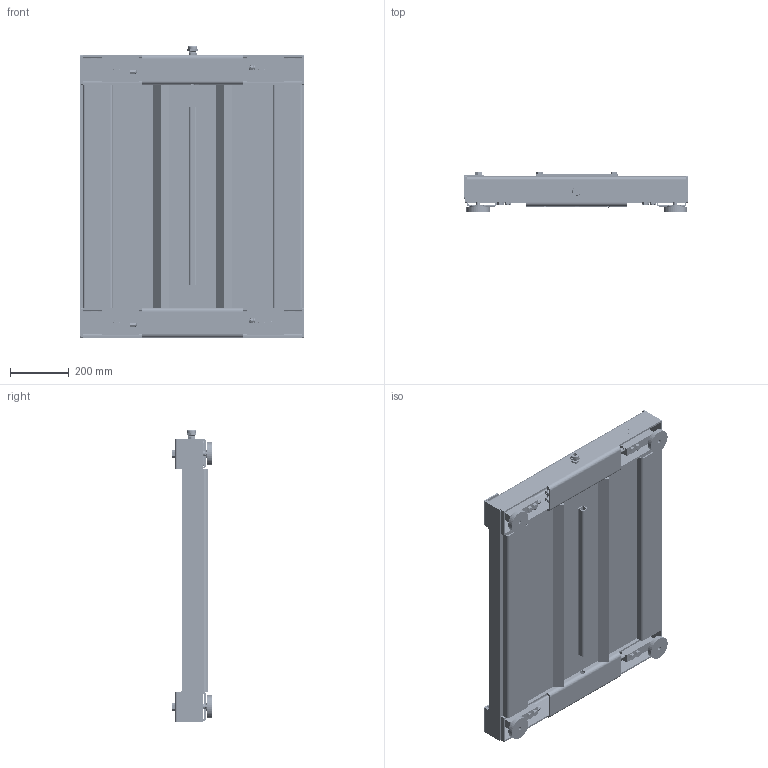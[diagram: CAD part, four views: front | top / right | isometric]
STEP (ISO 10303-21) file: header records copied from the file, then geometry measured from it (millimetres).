
FILE_DESCRIPTION (( 'STEP AP214' ), '1' );
FILE_NAME ('Drum_Scale_HIDS-3030 Series.STEP', '2024-03-20T21:03:57', ( '' ), ( '' ), 'SwSTEP 2.0', 'SolidWorks 2023', '' );
FILE_SCHEMA (( 'AUTOMOTIVE_DESIGN' ));
Length unit declared in the file: inch
Products named in the file (47): 0530-0825-01-0; Metal in foot; smkds_1-9-3.5; 100-140783_1; 1403-0271_2817-0277-0_McMaster_91772A194_Passivated 18-8 Stainless Steel Pan Head Phillips Screw; Load Sensor_HISLB Series_With PN 5504-0087-5KG Foot; T.125 x 1 x 1 x 24_Default_As Machined_; Hex Bolt - 1_2 - 20_3; 1403-0271_McMaster_90402A144_Steel Pan Head Screws; 900-100128_1; L.25 x 1.5 x 1.5 x 30_Default_As Machined_; 0519-0627-03-0_J-Box_0519-0627-XX-0_Assembly Step 7; 1403-0271_McMaster_94459A330_Heat-Set Inserts for Plastic; Hex Bolt - 1_2 - 13_1.25; 1403-0271_Bottom; 800-000166_1; 900-100111_1; SLB-CU_Body; DP.25 x 30 x 30_1; 200-140371-1_Back Stop; 1403-0271_2822-0085-0_McMaster_90350A270_Wire-Lockable Rounded Head Screws; 100-142126_CS No Hole; 100-142128; 0535-0575-03-0_PWA; 1403-0271_Top; SLB CABLE ADAPTER; 100-140004_Short; Stamped Cup; 0534-0575-01-0 PWB; 0530-0902-03-0_HI6011IT-ABS1 Label; 1403-0271_Heyco_m3207; Drum_Scale_HIDS-3030 Series; Hex Nut - 1_2 - 13_CS Heavy; Rubber Foot; Phoenix_1751167; Hex Bolt - 5_8 - 11_1; Formed Hex Screw_AM_B18.2.3.2M - Formed hex screw, M6 x 1.0 x 10 --10WN; smkds_1-7-3.5; 0530-0922-XX; 100-140005_CS_1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
Assembly tree (104 placements, depth 5):
  Drum_Scale_HIDS-3030 Series
    200-140371-1_Back Stop
      DP.25 x 30 x 30_1
      100-142123_Default_As Machined_  x2
      100-140783_1  x2
      100-140004_Short  x4
      100-142126_CS No Hole  x2
      Hex Nut - 5_8 - 11_CS Heavy_1  x4
      100-140005_CS_1  x4
      T.125 x 1 x 1 x 24_Default_As Machined_
      Hex Nut - 1_2 - 13_CS Heavy  x4
      Hex Bolt - 1_2 - 13_1.25  x4
      L.25 x 1.5 x 1.5 x 30_Default_As Machined_  x2
    900-100128_1  x2
    800-000166_1
    900-100111_1
    100-142128
    Hex Bolt - 5_8 - 11_1  x2
    100-142131  x4
    Load Sensor_HISLB Series_With PN 5504-0087-5KG Foot  x4
      SLB-CU_Body
      SLB CABLE ADAPTER
      5504-0087-5KLB
        Rubber Foot
        Metal in foot
        Stamped Cup
        Formed Hex Screw_AM_B18.2.3.2M - Formed hex screw, M6 x 1.0 x 10 --10WN  x2
        4-7638-2A LONG LONG PIN (HALF-20)
    0519-0627-03-0_J-Box_0519-0627-XX-0_Assembly Step 7
      1403-0271_Bottom
      1403-0271_McMaster_94459A330_Heat-Set Inserts for Plastic  x6
      0535-0575-03-0_PWA
        0534-0575-01-0 PWB
        Phoenix_1751141
          smkds_1-7-3.5
        smkds_1-7-3.5  x3
        Phoenix_1751167
          smkds_1-9-3.5
      1403-0271_McMaster_90402A144_Steel Pan Head Screws  x4
      1403-0271_Heyco_m3207  x5
      1403-0271_Heyco_3165-3166  x5
      1403-0271_Top
      1403-0271_2822-0085-0_McMaster_90350A270_Wire-Lockable Rounded Head Screws  x2
      1403-0271_2817-0277-0_McMaster_91772A194_Passivated 18-8 Stainless Steel Pan Head Phillips Screw  x4
      0530-0902-03-0_HI6011IT-ABS1 Label
    Hex Bolt - 1_2 - 20_3  x8
    0530-0825-01-0
    0530-0922-XX
Bounding box: 766.76 x 137.27 x 993.77 mm (x, y, z)
Volume: 11431255.5 mm3; surface area: 3862977.7 mm2
Topology: 307 solids, 327 shells, 20695 faces, 53481 edges, 33951 vertices
Faces by surface type: plane 8044, bspline 5280, cylinder 4075, cone 3222, torus 62, sphere 12
Entity records: 408007 total; most frequent: CARTESIAN_POINT 185309, ORIENTED_EDGE 51332, DIRECTION 34451, EDGE_CURVE 25668, VERTEX_POINT 16760, LINE 15225, VECTOR 15225, EDGE_LOOP 10532
